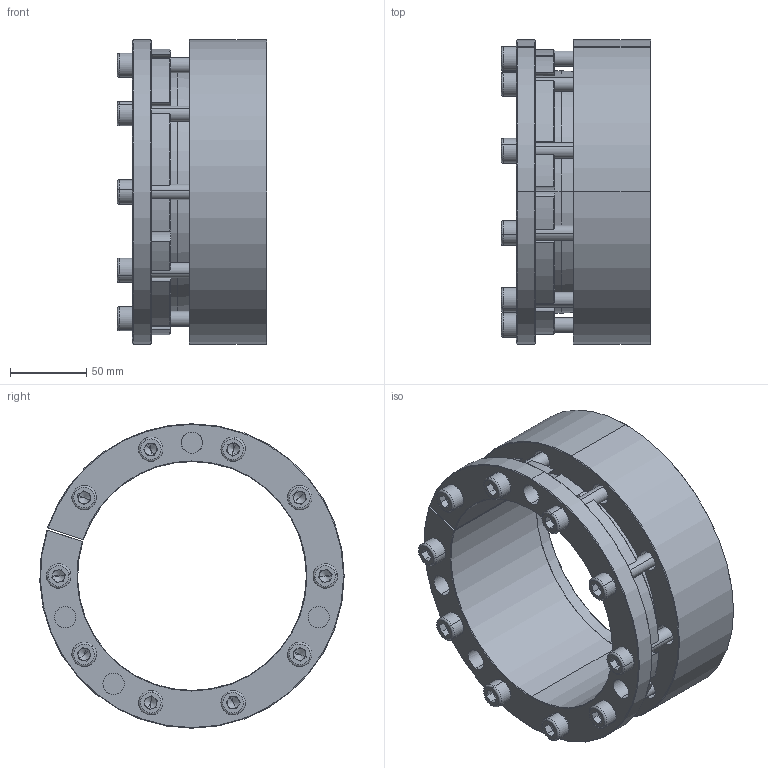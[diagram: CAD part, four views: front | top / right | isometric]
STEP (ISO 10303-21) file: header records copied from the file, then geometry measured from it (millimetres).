
FILE_DESCRIPTION (( 'STEP AP214' ), '1' );
FILE_NAME ('PL-H2 150-200.STEP', '2022-07-25T02:39:57', ( '' ), ( '' ), 'SwSTEP 2.0', 'SolidWorks 2022', '' );
FILE_SCHEMA (( 'AUTOMOTIVE_DESIGN' ));
Length unit declared in the file: millimetre
Products named in the file (1): PL-H2 150-200
Bounding box: 98.19 x 199.76 x 199.82 mm (x, y, z)
Volume: 920954.1 mm3; surface area: 198617.3 mm2
Topology: 1 solids, 1 shells, 381 faces, 969 edges, 596 vertices
Faces by surface type: plane 158, cylinder 115, cone 88, torus 20
Entity records: 11534 total; most frequent: DIRECTION 2110, CARTESIAN_POINT 2083, ORIENTED_EDGE 1898, EDGE_CURVE 949, AXIS2_PLACEMENT_3D 831, VERTEX_POINT 596, CIRCLE 449, LINE 448
